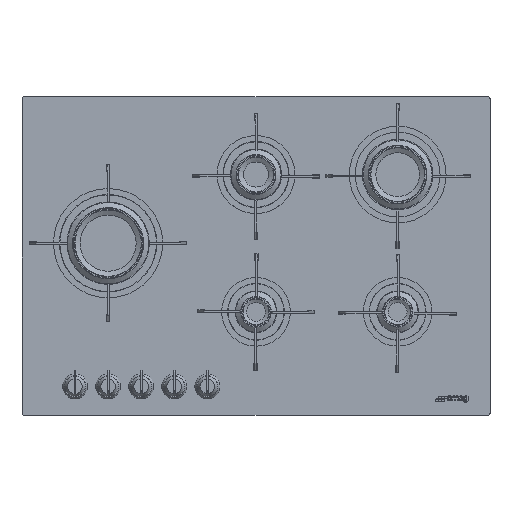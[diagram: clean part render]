
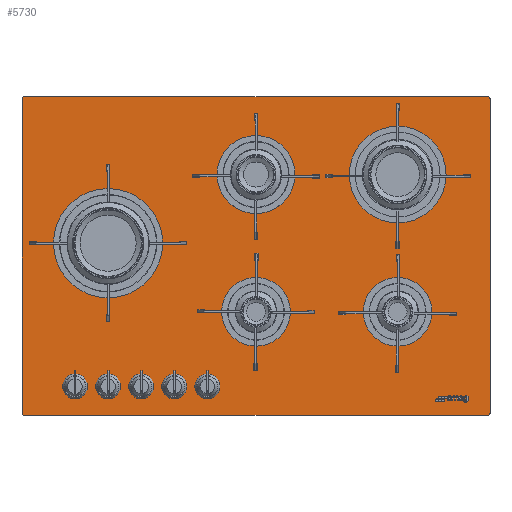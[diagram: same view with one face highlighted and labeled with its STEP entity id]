
A CAD part, top view. The second image highlights one B-rep face of the part: STEP entity #5730.
In plain terms, the highlighted planar face has unit normal (0, 0, 1).
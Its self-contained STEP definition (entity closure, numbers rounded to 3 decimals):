
#1442=PLANE('',#16333);
#3283=LINE('',#24297,#4657);
#3287=LINE('',#24306,#4661);
#3293=LINE('',#24320,#4667);
#3297=LINE('',#24329,#4671);
#4657=VECTOR('',#19580,1.);
#4661=VECTOR('',#19586,1.);
#4667=VECTOR('',#19594,1.);
#4671=VECTOR('',#19600,1.);
#5730=ADVANCED_FACE('',(#6258,#6259,#6260,#6261,#6262,#6263,#6264,#6265,
#6266,#6267,#6268),#1442,.T.);
#6258=FACE_BOUND('',#7051,.T.);
#6259=FACE_BOUND('',#7052,.T.);
#6260=FACE_BOUND('',#7053,.T.);
#6261=FACE_BOUND('',#7054,.T.);
#6262=FACE_BOUND('',#7055,.T.);
#6263=FACE_BOUND('',#7056,.T.);
#6264=FACE_BOUND('',#7057,.T.);
#6265=FACE_BOUND('',#7058,.T.);
#6266=FACE_BOUND('',#7059,.T.);
#6267=FACE_BOUND('',#7060,.T.);
#6268=FACE_BOUND('',#7061,.T.);
#7051=EDGE_LOOP('',(#10570));
#7052=EDGE_LOOP('',(#10571));
#7053=EDGE_LOOP('',(#10572));
#7054=EDGE_LOOP('',(#10573));
#7055=EDGE_LOOP('',(#10574));
#7056=EDGE_LOOP('',(#10575));
#7057=EDGE_LOOP('',(#10576));
#7058=EDGE_LOOP('',(#10577));
#7059=EDGE_LOOP('',(#10578));
#7060=EDGE_LOOP('',(#10579));
#7061=EDGE_LOOP('',(#10580,#10581,#10582,#10583,#10584,#10585,#10586,#10587));
#7793=CIRCLE('',#16319,71.5);
#7794=CIRCLE('',#16320,49.);
#7795=CIRCLE('',#16321,56.5);
#7796=CIRCLE('',#16322,81.5);
#7797=CIRCLE('',#16323,49.);
#7798=CIRCLE('',#16324,12.5);
#7799=CIRCLE('',#16325,12.5);
#7800=CIRCLE('',#16326,12.5);
#7801=CIRCLE('',#16327,12.5);
#7802=CIRCLE('',#16328,12.5);
#7803=CIRCLE('',#16329,3.);
#7804=CIRCLE('',#16330,3.);
#7805=CIRCLE('',#16331,3.);
#7806=CIRCLE('',#16332,3.);
#10570=ORIENTED_EDGE('',*,*,#14634,.F.);
#10571=ORIENTED_EDGE('',*,*,#14635,.F.);
#10572=ORIENTED_EDGE('',*,*,#14636,.F.);
#10573=ORIENTED_EDGE('',*,*,#14637,.F.);
#10574=ORIENTED_EDGE('',*,*,#14638,.F.);
#10575=ORIENTED_EDGE('',*,*,#14639,.F.);
#10576=ORIENTED_EDGE('',*,*,#14640,.F.);
#10577=ORIENTED_EDGE('',*,*,#14641,.F.);
#10578=ORIENTED_EDGE('',*,*,#14642,.F.);
#10579=ORIENTED_EDGE('',*,*,#14643,.F.);
#10580=ORIENTED_EDGE('',*,*,#14632,.T.);
#10581=ORIENTED_EDGE('',*,*,#14644,.T.);
#10582=ORIENTED_EDGE('',*,*,#14618,.T.);
#10583=ORIENTED_EDGE('',*,*,#14645,.T.);
#10584=ORIENTED_EDGE('',*,*,#14622,.T.);
#10585=ORIENTED_EDGE('',*,*,#14646,.T.);
#10586=ORIENTED_EDGE('',*,*,#14628,.T.);
#10587=ORIENTED_EDGE('',*,*,#14647,.T.);
#12851=VERTEX_POINT('',#24298);
#12852=VERTEX_POINT('',#24299);
#12855=VERTEX_POINT('',#24307);
#12856=VERTEX_POINT('',#24308);
#12861=VERTEX_POINT('',#24319);
#12862=VERTEX_POINT('',#24321);
#12865=VERTEX_POINT('',#24328);
#12866=VERTEX_POINT('',#24330);
#12867=VERTEX_POINT('',#24334);
#12868=VERTEX_POINT('',#24336);
#12869=VERTEX_POINT('',#24338);
#12870=VERTEX_POINT('',#24340);
#12871=VERTEX_POINT('',#24342);
#12872=VERTEX_POINT('',#24344);
#12873=VERTEX_POINT('',#24346);
#12874=VERTEX_POINT('',#24348);
#12875=VERTEX_POINT('',#24350);
#12876=VERTEX_POINT('',#24352);
#14618=EDGE_CURVE('',#12851,#12852,#3283,.T.);
#14622=EDGE_CURVE('',#12855,#12856,#3287,.T.);
#14628=EDGE_CURVE('',#12862,#12861,#3293,.T.);
#14632=EDGE_CURVE('',#12866,#12865,#3297,.T.);
#14634=EDGE_CURVE('',#12867,#12867,#7793,.T.);
#14635=EDGE_CURVE('',#12868,#12868,#7794,.T.);
#14636=EDGE_CURVE('',#12869,#12869,#7795,.T.);
#14637=EDGE_CURVE('',#12870,#12870,#7796,.T.);
#14638=EDGE_CURVE('',#12871,#12871,#7797,.T.);
#14639=EDGE_CURVE('',#12872,#12872,#7798,.T.);
#14640=EDGE_CURVE('',#12873,#12873,#7799,.T.);
#14641=EDGE_CURVE('',#12874,#12874,#7800,.T.);
#14642=EDGE_CURVE('',#12875,#12875,#7801,.T.);
#14643=EDGE_CURVE('',#12876,#12876,#7802,.T.);
#14644=EDGE_CURVE('',#12865,#12851,#7803,.T.);
#14645=EDGE_CURVE('',#12852,#12855,#7804,.T.);
#14646=EDGE_CURVE('',#12856,#12862,#7805,.T.);
#14647=EDGE_CURVE('',#12861,#12866,#7806,.T.);
#16319=AXIS2_PLACEMENT_3D('',#24333,#19604,#19605);
#16320=AXIS2_PLACEMENT_3D('',#24335,#19606,#19607);
#16321=AXIS2_PLACEMENT_3D('',#24337,#19608,#19609);
#16322=AXIS2_PLACEMENT_3D('',#24339,#19610,#19611);
#16323=AXIS2_PLACEMENT_3D('',#24341,#19612,#19613);
#16324=AXIS2_PLACEMENT_3D('',#24343,#19614,#19615);
#16325=AXIS2_PLACEMENT_3D('',#24345,#19616,#19617);
#16326=AXIS2_PLACEMENT_3D('',#24347,#19618,#19619);
#16327=AXIS2_PLACEMENT_3D('',#24349,#19620,#19621);
#16328=AXIS2_PLACEMENT_3D('',#24351,#19622,#19623);
#16329=AXIS2_PLACEMENT_3D('',#24353,#19624,#19625);
#16330=AXIS2_PLACEMENT_3D('',#24354,#19626,#19627);
#16331=AXIS2_PLACEMENT_3D('',#24355,#19628,#19629);
#16332=AXIS2_PLACEMENT_3D('',#24356,#19630,#19631);
#16333=AXIS2_PLACEMENT_3D('',#24357,#19632,#19633);
#19580=DIRECTION('',(0.,-1.,0.));
#19586=DIRECTION('',(1.,0.,0.));
#19594=DIRECTION('',(0.,1.,0.));
#19600=DIRECTION('',(-1.,0.,0.));
#19604=DIRECTION('',(0.,0.,1.));
#19605=DIRECTION('',(1.,0.,0.));
#19606=DIRECTION('',(0.,0.,1.));
#19607=DIRECTION('',(1.,0.,0.));
#19608=DIRECTION('',(0.,0.,1.));
#19609=DIRECTION('',(1.,0.,0.));
#19610=DIRECTION('',(0.,0.,1.));
#19611=DIRECTION('',(1.,0.,0.));
#19612=DIRECTION('',(0.,0.,1.));
#19613=DIRECTION('',(1.,0.,0.));
#19614=DIRECTION('',(0.,0.,1.));
#19615=DIRECTION('',(1.,0.,0.));
#19616=DIRECTION('',(0.,0.,1.));
#19617=DIRECTION('',(1.,0.,0.));
#19618=DIRECTION('',(0.,0.,1.));
#19619=DIRECTION('',(1.,0.,0.));
#19620=DIRECTION('',(0.,0.,1.));
#19621=DIRECTION('',(1.,0.,0.));
#19622=DIRECTION('',(0.,0.,1.));
#19623=DIRECTION('',(1.,0.,0.));
#19624=DIRECTION('',(0.,0.,1.));
#19625=DIRECTION('',(1.,0.,0.));
#19626=DIRECTION('',(0.,0.,1.));
#19627=DIRECTION('',(1.,0.,0.));
#19628=DIRECTION('',(0.,0.,1.));
#19629=DIRECTION('',(1.,0.,0.));
#19630=DIRECTION('',(0.,0.,1.));
#19631=DIRECTION('',(1.,0.,0.));
#19632=DIRECTION('',(0.,0.,1.));
#19633=DIRECTION('',(1.,0.,0.));
#24297=CARTESIAN_POINT('',(-375.,495.5,55.));
#24298=CARTESIAN_POINT('',(-375.,492.5,55.));
#24299=CARTESIAN_POINT('',(-375.,-11.5,55.));
#24306=CARTESIAN_POINT('',(-375.,-14.5,55.));
#24307=CARTESIAN_POINT('',(-372.,-14.5,55.));
#24308=CARTESIAN_POINT('',(372.,-14.5,55.));
#24319=CARTESIAN_POINT('',(375.,492.5,55.));
#24320=CARTESIAN_POINT('',(375.,-14.5,55.));
#24321=CARTESIAN_POINT('',(375.,-11.5,55.));
#24328=CARTESIAN_POINT('',(-372.,495.5,55.));
#24329=CARTESIAN_POINT('',(375.,495.5,55.));
#24330=CARTESIAN_POINT('',(372.,495.5,55.));
#24333=CARTESIAN_POINT('',(227.,371.,55.));
#24334=CARTESIAN_POINT('',(298.5,371.,55.));
#24335=CARTESIAN_POINT('',(0.,151.,55.));
#24336=CARTESIAN_POINT('',(49.,151.,55.));
#24337=CARTESIAN_POINT('',(0.,371.,55.));
#24338=CARTESIAN_POINT('',(56.5,371.,55.));
#24339=CARTESIAN_POINT('',(-237.,261.,55.));
#24340=CARTESIAN_POINT('',(-155.5,261.,55.));
#24341=CARTESIAN_POINT('',(227.,151.,55.));
#24342=CARTESIAN_POINT('',(276.,151.,55.));
#24343=CARTESIAN_POINT('',(-78.,31.5,55.));
#24344=CARTESIAN_POINT('',(-65.5,31.5,55.));
#24345=CARTESIAN_POINT('',(-131.,31.5,55.));
#24346=CARTESIAN_POINT('',(-118.5,31.5,55.));
#24347=CARTESIAN_POINT('',(-184.,31.5,55.));
#24348=CARTESIAN_POINT('',(-171.5,31.5,55.));
#24349=CARTESIAN_POINT('',(-237.,31.5,55.));
#24350=CARTESIAN_POINT('',(-224.5,31.5,55.));
#24351=CARTESIAN_POINT('',(-290.,31.5,55.));
#24352=CARTESIAN_POINT('',(-277.5,31.5,55.));
#24353=CARTESIAN_POINT('',(-372.,492.5,55.));
#24354=CARTESIAN_POINT('',(-372.,-11.5,55.));
#24355=CARTESIAN_POINT('',(372.,-11.5,55.));
#24356=CARTESIAN_POINT('',(372.,492.5,55.));
#24357=CARTESIAN_POINT('',(0.,-14.5,55.));
